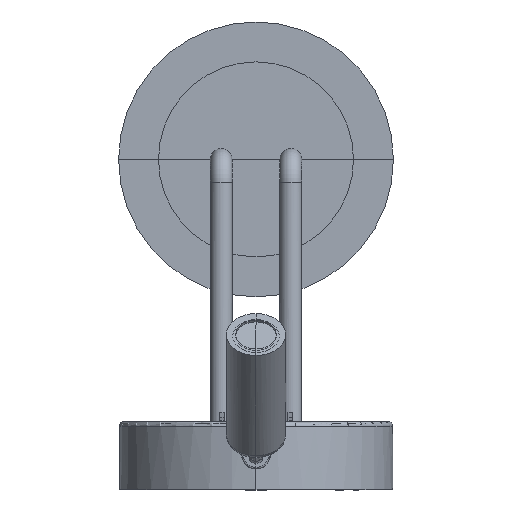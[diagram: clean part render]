
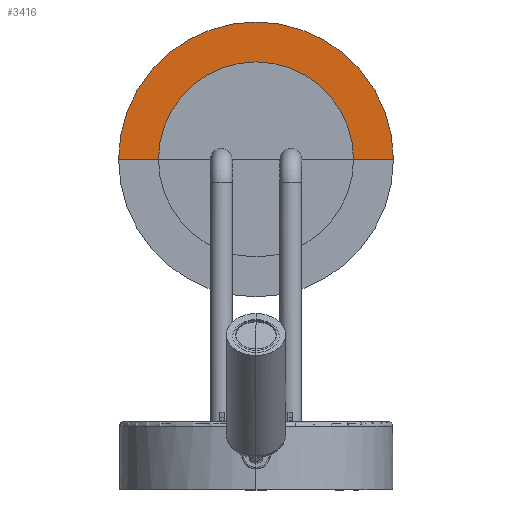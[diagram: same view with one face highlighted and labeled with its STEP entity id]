
A CAD part, front view. The second image highlights one B-rep face of the part: STEP entity #3416.
In plain terms, the highlighted planar face has unit normal (0, -1, 0).
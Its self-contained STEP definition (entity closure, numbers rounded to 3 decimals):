
#387=FACE_OUTER_BOUND('',#621,.T.);
#621=EDGE_LOOP('',(#2674,#2675,#2676,#2677));
#823=CIRCLE('',#3726,25.171);
#826=CIRCLE('',#3732,60.272);
#1037=LINE('',#6094,#1294);
#1038=LINE('',#6095,#1295);
#1294=VECTOR('',#4431,304.8);
#1295=VECTOR('',#4432,304.8);
#1551=VERTEX_POINT('',#6081);
#1552=VERTEX_POINT('',#6082);
#1553=VERTEX_POINT('',#6091);
#1554=VERTEX_POINT('',#6092);
#1939=EDGE_CURVE('',#1551,#1552,#823,.T.);
#1944=EDGE_CURVE('',#1553,#1554,#826,.T.);
#1945=EDGE_CURVE('',#1551,#1553,#1037,.T.);
#1946=EDGE_CURVE('',#1554,#1552,#1038,.T.);
#2674=ORIENTED_EDGE('',*,*,#1944,.F.);
#2675=ORIENTED_EDGE('',*,*,#1945,.F.);
#2676=ORIENTED_EDGE('',*,*,#1939,.T.);
#2677=ORIENTED_EDGE('',*,*,#1946,.F.);
#3254=PLANE('',#3731);
#3416=ADVANCED_FACE('',(#387),#3254,.T.);
#3726=AXIS2_PLACEMENT_3D('',#6083,#4415,#4416);
#3731=AXIS2_PLACEMENT_3D('',#6090,#4427,#4428);
#3732=AXIS2_PLACEMENT_3D('',#6093,#4429,#4430);
#4415=DIRECTION('center_axis',(0.,1.,0.));
#4416=DIRECTION('ref_axis',(-1.,0.,0.));
#4427=DIRECTION('center_axis',(0.,-1.,0.));
#4428=DIRECTION('ref_axis',(-1.,0.,0.));
#4429=DIRECTION('center_axis',(0.,1.,0.));
#4430=DIRECTION('ref_axis',(-1.,0.,0.));
#4431=DIRECTION('',(-1.,0.,0.));
#4432=DIRECTION('',(-1.,0.,0.));
#6081=CARTESIAN_POINT('',(-25.171,189.,145.004));
#6082=CARTESIAN_POINT('',(25.171,189.,145.004));
#6083=CARTESIAN_POINT('Origin',(0.,189.,145.004));
#6090=CARTESIAN_POINT('Origin',(0.,189.,145.004));
#6091=CARTESIAN_POINT('',(-60.272,189.,145.004));
#6092=CARTESIAN_POINT('',(60.272,189.,145.004));
#6093=CARTESIAN_POINT('Origin',(0.,189.,145.004));
#6094=CARTESIAN_POINT('',(-25.171,189.,145.004));
#6095=CARTESIAN_POINT('',(60.272,189.,145.004));
